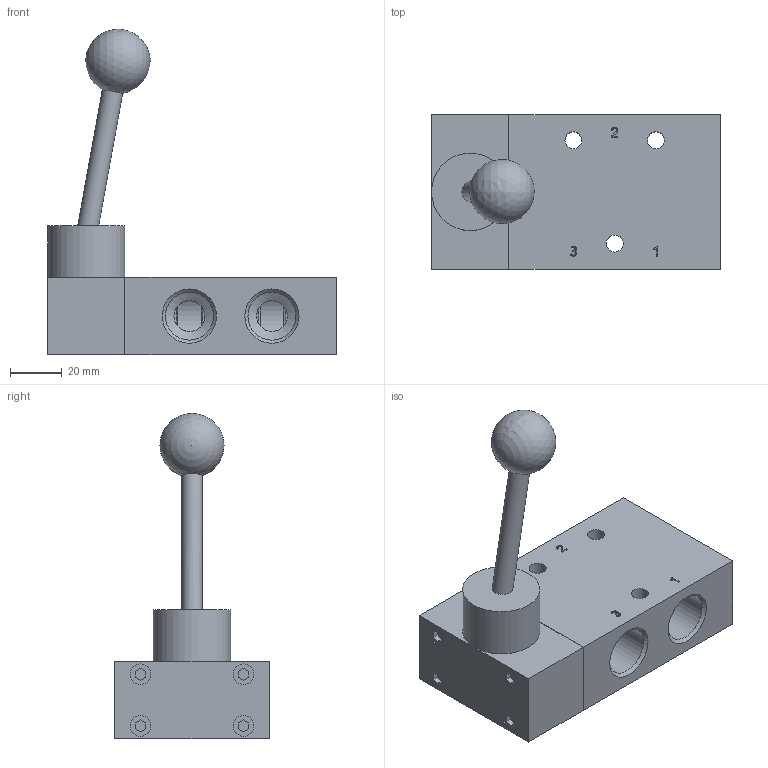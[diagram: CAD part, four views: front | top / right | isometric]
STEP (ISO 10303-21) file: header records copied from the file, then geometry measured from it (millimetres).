
FILE_DESCRIPTION(/* description */ ('Unknown','CAx-IF Rec.Pracs.---Representation and Presentation of Product Manufacturing Information (PMI)---4.0---2014-10-13','CAx-IF Rec.Pracs.---3D Tessellated Geometry---0.4---2014-09-14','2;1'),/* implementation_level */ '2;1');
FILE_NAME(/* name */ 'HVR 320 121',/* time_stamp */ '2019-08-28T10:35:42+02:00',/* author */ ('Unknown'),/* organization */ ('Unknown'),/* preprocessor_version */ 'ST-DEVELOPER v16.7',/* originating_system */ 'DEX',/* authorisation */ $);
FILE_SCHEMA (('AP242_MANAGED_MODEL_BASED_3D_ENGINEERING_MIM_LF { 1 0 10303 442 20130219 1 4 }'));
Length unit declared in the file: millimetre
Products named in the file (2): HVR 320 121
Assembly tree (1 placements, depth 2):
  HVR 320 121
    HVR 320 121
Bounding box: 112 x 60 x 126.22 mm (x, y, z)
Volume: 170136.4 mm3; surface area: 45778.7 mm2
Topology: 3 solids, 3 shells, 176 faces, 446 edges, 292 vertices
Faces by surface type: plane 82, cylinder 51, cone 24, bspline 16, torus 2, sphere 1
Full cylindrical faces by diameter (mm): 1.6 x1, 4.134 x8, 6.6 x3, 8 x5, 12 x3, 16.5 x1, 17 x1, 18.631 x6, 20.1 x1, 22 x4, 22.1 x1, 30 x1
Entity records: 6196 total; most frequent: CARTESIAN_POINT 1214, DIRECTION 738, ORIENTED_EDGE 714, EDGE_CURVE 357, FACE_BOUND 270, AXIS2_PLACEMENT_3D 270, EDGE_LOOP 266, VERTEX_POINT 265
